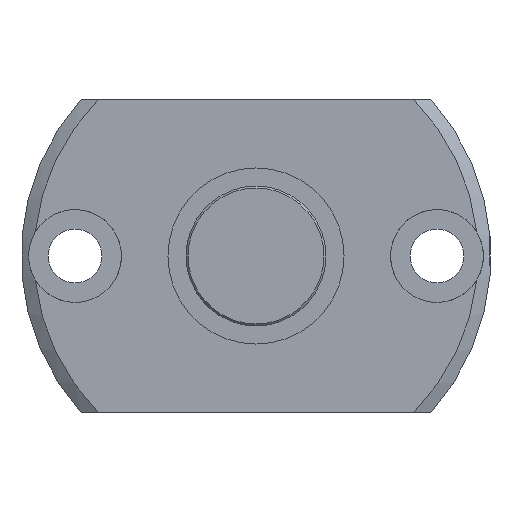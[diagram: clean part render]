
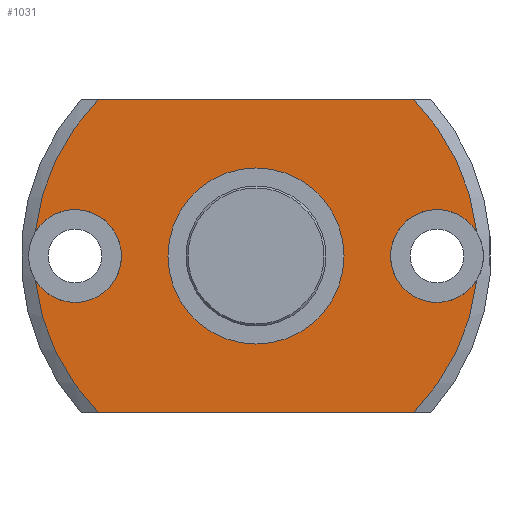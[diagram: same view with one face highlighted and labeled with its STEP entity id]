
A CAD part, left-side view. The second image highlights one B-rep face of the part: STEP entity #1031.
In plain terms, the highlighted planar face has unit normal (-1, 0, 0).
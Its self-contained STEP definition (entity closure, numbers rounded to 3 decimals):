
#38=LINE('',#1820,#88);
#39=LINE('',#1822,#89);
#88=VECTOR('',#1393,1000.);
#89=VECTOR('',#1396,1000.);
#308=ORIENTED_EDGE('',*,*,#562,.T.);
#309=ORIENTED_EDGE('',*,*,#563,.T.);
#310=ORIENTED_EDGE('',*,*,#548,.T.);
#311=ORIENTED_EDGE('',*,*,#564,.F.);
#312=ORIENTED_EDGE('',*,*,#550,.F.);
#313=ORIENTED_EDGE('',*,*,#565,.T.);
#314=ORIENTED_EDGE('',*,*,#554,.T.);
#315=ORIENTED_EDGE('',*,*,#566,.F.);
#316=ORIENTED_EDGE('',*,*,#544,.T.);
#544=EDGE_CURVE('',#670,#668,#743,.F.);
#548=EDGE_CURVE('',#669,#673,#745,.F.);
#550=EDGE_CURVE('',#674,#676,#746,.T.);
#554=EDGE_CURVE('',#675,#679,#748,.F.);
#562=EDGE_CURVE('',#687,#687,#754,.T.);
#563=EDGE_CURVE('',#668,#669,#755,.T.);
#564=EDGE_CURVE('',#676,#673,#38,.T.);
#565=EDGE_CURVE('',#674,#675,#756,.T.);
#566=EDGE_CURVE('',#670,#679,#39,.T.);
#668=VERTEX_POINT('',#1761);
#669=VERTEX_POINT('',#1762);
#670=VERTEX_POINT('',#1764);
#673=VERTEX_POINT('',#1776);
#674=VERTEX_POINT('',#1784);
#675=VERTEX_POINT('',#1785);
#676=VERTEX_POINT('',#1787);
#679=VERTEX_POINT('',#1799);
#687=VERTEX_POINT('',#1818);
#743=CIRCLE('',#1153,22.7);
#745=CIRCLE('',#1155,22.7);
#746=CIRCLE('',#1157,22.7);
#748=CIRCLE('',#1159,22.7);
#754=CIRCLE('',#1167,9.);
#755=CIRCLE('',#1168,4.75);
#756=CIRCLE('',#1169,4.75);
#816=EDGE_LOOP('',(#308));
#817=EDGE_LOOP('',(#309,#310,#311,#312,#313,#314,#315,#316));
#914=FACE_BOUND('',#816,.T.);
#915=FACE_BOUND('',#817,.T.);
#976=PLANE('',#1166);
#1031=ADVANCED_FACE('',(#914,#915),#976,.F.);
#1153=AXIS2_PLACEMENT_3D('',#1763,#1359,#1360);
#1155=AXIS2_PLACEMENT_3D('',#1777,#1363,#1364);
#1157=AXIS2_PLACEMENT_3D('',#1786,#1367,#1368);
#1159=AXIS2_PLACEMENT_3D('',#1800,#1371,#1372);
#1166=AXIS2_PLACEMENT_3D('',#1816,#1387,#1388);
#1167=AXIS2_PLACEMENT_3D('',#1817,#1389,#1390);
#1168=AXIS2_PLACEMENT_3D('',#1819,#1391,#1392);
#1169=AXIS2_PLACEMENT_3D('',#1821,#1394,#1395);
#1359=DIRECTION('',(1.,0.,0.));
#1360=DIRECTION('',(0.,0.,-1.));
#1363=DIRECTION('',(1.,0.,0.));
#1364=DIRECTION('',(0.,0.,-1.));
#1367=DIRECTION('',(1.,0.,0.));
#1368=DIRECTION('',(0.,0.,-1.));
#1371=DIRECTION('',(1.,0.,0.));
#1372=DIRECTION('',(0.,0.,-1.));
#1387=DIRECTION('',(1.,0.,0.));
#1388=DIRECTION('',(0.,0.,-1.));
#1389=DIRECTION('',(1.,0.,0.));
#1390=DIRECTION('',(0.,0.,-1.));
#1391=DIRECTION('',(1.,0.,0.));
#1392=DIRECTION('',(0.,0.,-1.));
#1393=DIRECTION('',(0.,-1.,0.));
#1394=DIRECTION('',(1.,0.,0.));
#1395=DIRECTION('',(0.,0.,-1.));
#1396=DIRECTION('',(0.,1.,0.));
#1761=CARTESIAN_POINT('',(0.,-22.567,-2.454));
#1762=CARTESIAN_POINT('',(0.,-22.567,2.454));
#1763=CARTESIAN_POINT('',(0.,0.,0.));
#1764=CARTESIAN_POINT('',(0.,-16.102,-16.));
#1776=CARTESIAN_POINT('',(0.,-16.102,16.));
#1777=CARTESIAN_POINT('',(0.,0.,0.));
#1784=CARTESIAN_POINT('',(0.,22.567,2.454));
#1785=CARTESIAN_POINT('',(0.,22.567,-2.454));
#1786=CARTESIAN_POINT('',(0.,0.,0.));
#1787=CARTESIAN_POINT('',(0.,16.102,16.));
#1799=CARTESIAN_POINT('',(0.,16.102,-16.));
#1800=CARTESIAN_POINT('',(0.,0.,0.));
#1816=CARTESIAN_POINT('',(0.,0.,0.));
#1817=CARTESIAN_POINT('',(0.,0.,0.));
#1818=CARTESIAN_POINT('',(0.,0.,-9.));
#1819=CARTESIAN_POINT('',(0.,-18.5,0.));
#1820=CARTESIAN_POINT('',(0.,17.889,16.));
#1821=CARTESIAN_POINT('',(0.,18.5,0.));
#1822=CARTESIAN_POINT('',(0.,-17.889,-16.));
